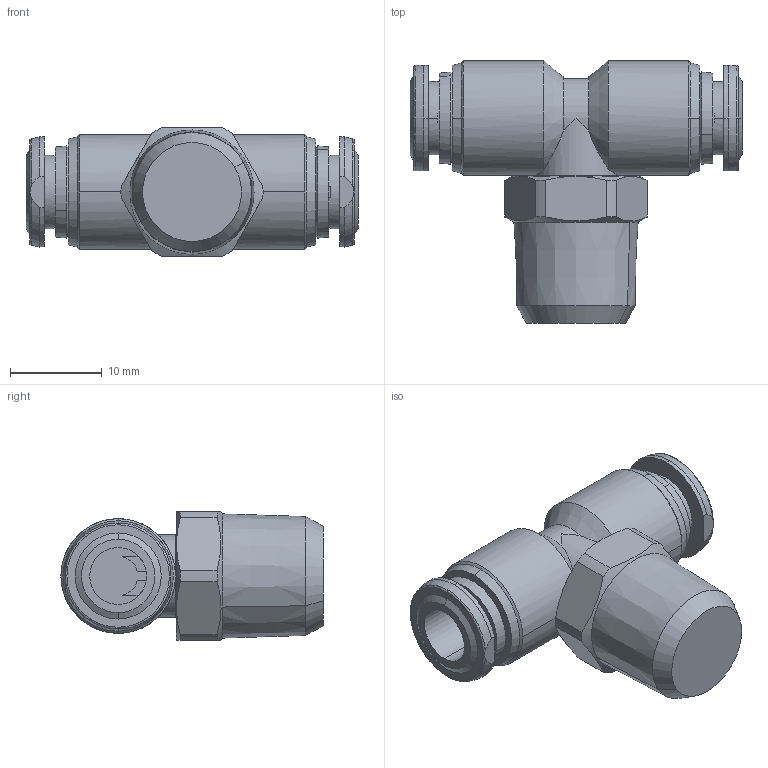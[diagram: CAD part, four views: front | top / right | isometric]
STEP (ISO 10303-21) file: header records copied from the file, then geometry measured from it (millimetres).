
FILE_DESCRIPTION (( 'STEP AP214' ), '1' );
FILE_NAME ('60210X0004.STEP', '2024-04-17T13:21:04', ( '' ), ( '' ), 'SwSTEP 2.0', 'SolidWorks 2020', '' );
FILE_SCHEMA (( 'AUTOMOTIVE_DESIGN' ));
Length unit declared in the file: millimetre
Products named in the file (1): 60210X0004
Bounding box: 36.2 x 28.6 x 14 mm (x, y, z)
Volume: 5159.9 mm3; surface area: 3357.3 mm2
Topology: 1 solids, 3 shells, 152 faces, 371 edges, 237 vertices
Faces by surface type: plane 54, cylinder 52, cone 42, torus 4
Entity records: 4770 total; most frequent: CARTESIAN_POINT 1125, DIRECTION 788, ORIENTED_EDGE 742, EDGE_CURVE 371, AXIS2_PLACEMENT_3D 322, VERTEX_POINT 237, CIRCLE 169, EDGE_LOOP 164
